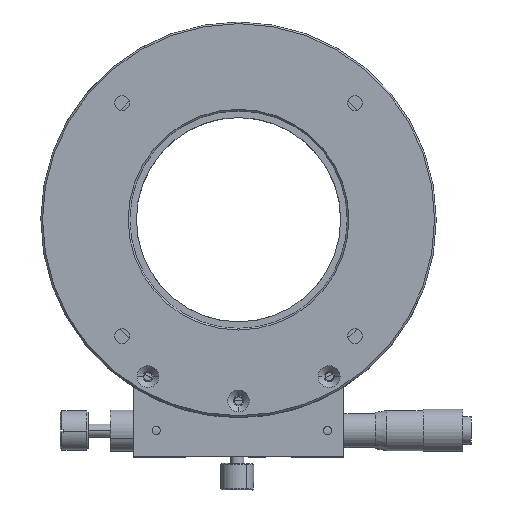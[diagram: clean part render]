
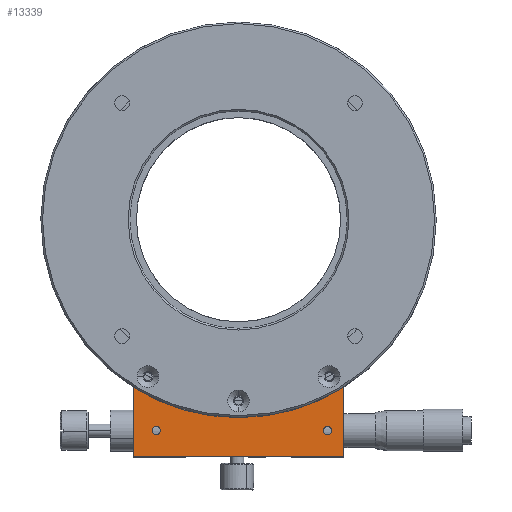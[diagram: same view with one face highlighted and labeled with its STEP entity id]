
A CAD part, top view. The second image highlights one B-rep face of the part: STEP entity #13339.
In plain terms, the highlighted planar face has unit normal (0, 0, 1).
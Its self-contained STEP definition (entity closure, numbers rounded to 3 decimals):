
#402 = CIRCLE ( 'NONE', #16401, 1.25 ) ;
#1124 = LINE ( 'NONE', #14898, #10616 ) ;
#1240 = VECTOR ( 'NONE', #19619, 1000. ) ;
#1335 = AXIS2_PLACEMENT_3D ( 'NONE', #8649, #22175, #12469 ) ;
#1393 = DIRECTION ( 'NONE',  ( 0., 0., 1. ) ) ;
#1396 = FACE_BOUND ( 'NONE', #19332, .T. ) ;
#1850 = CARTESIAN_POINT ( 'NONE',  ( 21.297, -1.812, 95.661 ) ) ;
#2144 = EDGE_CURVE ( 'NONE', #5769, #4535, #9779, .T. ) ;
#2302 = DIRECTION ( 'NONE',  ( 0., 0., -1. ) ) ;
#2458 = EDGE_LOOP ( 'NONE', ( #21511, #7089 ) ) ;
#2645 = EDGE_CURVE ( 'NONE', #10055, #16226, #402, .T. ) ;
#3714 = CARTESIAN_POINT ( 'NONE',  ( 21.297, -4.312, 95.661 ) ) ;
#3861 = CIRCLE ( 'NONE', #1335, 60.1 ) ;
#4535 = VERTEX_POINT ( 'NONE', #7909 ) ;
#4808 = LINE ( 'NONE', #10020, #1240 ) ;
#5769 = VERTEX_POINT ( 'NONE', #7703 ) ;
#6132 = DIRECTION ( 'NONE',  ( 0., -1., 0. ) ) ;
#6779 = CARTESIAN_POINT ( 'NONE',  ( 62.764, 7.354, 95.661 ) ) ;
#6912 = AXIS2_PLACEMENT_3D ( 'NONE', #6779, #1393, #14669 ) ;
#6976 = CARTESIAN_POINT ( 'NONE',  ( 73.297, -3.062, 95.661 ) ) ;
#7089 = ORIENTED_EDGE ( 'NONE', *, *, #11259, .T. ) ;
#7703 = CARTESIAN_POINT ( 'NONE',  ( 73.297, -1.812, 95.661 ) ) ;
#7843 = CARTESIAN_POINT ( 'NONE',  ( 14.297, 10.066, 95.661 ) ) ;
#7909 = CARTESIAN_POINT ( 'NONE',  ( 73.297, -4.312, 95.661 ) ) ;
#8352 = ORIENTED_EDGE ( 'NONE', *, *, #15908, .T. ) ;
#8475 = FACE_BOUND ( 'NONE', #2458, .T. ) ;
#8649 = CARTESIAN_POINT ( 'NONE',  ( 46.297, 60.938, 95.661 ) ) ;
#8821 = VERTEX_POINT ( 'NONE', #9754 ) ;
#9075 = DIRECTION ( 'NONE',  ( 0., -1., 0. ) ) ;
#9704 = CIRCLE ( 'NONE', #13610, 1.25 ) ;
#9754 = CARTESIAN_POINT ( 'NONE',  ( 78.297, 10.066, 95.661 ) ) ;
#9779 = CIRCLE ( 'NONE', #11344, 1.25 ) ;
#9876 = CARTESIAN_POINT ( 'NONE',  ( 73.297, -3.062, 95.661 ) ) ;
#10020 = CARTESIAN_POINT ( 'NONE',  ( 14.297, 7.354, 95.661 ) ) ;
#10055 = VERTEX_POINT ( 'NONE', #3714 ) ;
#10083 = CARTESIAN_POINT ( 'NONE',  ( 62.764, -11.062, 95.661 ) ) ;
#10394 = ORIENTED_EDGE ( 'NONE', *, *, #16874, .T. ) ;
#10616 = VECTOR ( 'NONE', #18480, 1000. ) ;
#10725 = EDGE_LOOP ( 'NONE', ( #11848, #18665, #8352, #16554, #10394 ) ) ;
#11259 = EDGE_CURVE ( 'NONE', #16226, #10055, #22881, .T. ) ;
#11314 = AXIS2_PLACEMENT_3D ( 'NONE', #14686, #22428, #9075 ) ;
#11344 = AXIS2_PLACEMENT_3D ( 'NONE', #6976, #21963, #20154 ) ;
#11496 = DIRECTION ( 'NONE',  ( 0., 0., -1. ) ) ;
#11768 = VERTEX_POINT ( 'NONE', #24514 ) ;
#11848 = ORIENTED_EDGE ( 'NONE', *, *, #24197, .T. ) ;
#12032 = ORIENTED_EDGE ( 'NONE', *, *, #23779, .T. ) ;
#12469 = DIRECTION ( 'NONE',  ( 0., -1., 0. ) ) ;
#12548 = PLANE ( 'NONE',  #6912 ) ;
#13194 = VERTEX_POINT ( 'NONE', #7843 ) ;
#13339 = ADVANCED_FACE ( 'NONE', ( #13552, #8475, #1396 ), #12548, .T. ) ;
#13406 = ORIENTED_EDGE ( 'NONE', *, *, #2144, .T. ) ;
#13552 = FACE_OUTER_BOUND ( 'NONE', #10725, .T. ) ;
#13610 = AXIS2_PLACEMENT_3D ( 'NONE', #9876, #11496, #17443 ) ;
#14669 = DIRECTION ( 'NONE',  ( 0., -1., 0. ) ) ;
#14686 = CARTESIAN_POINT ( 'NONE',  ( 21.297, -3.062, 95.661 ) ) ;
#14898 = CARTESIAN_POINT ( 'NONE',  ( 78.297, 7.354, 95.661 ) ) ;
#15542 = DIRECTION ( 'NONE',  ( 0., -1., 0. ) ) ;
#15908 = EDGE_CURVE ( 'NONE', #11768, #13194, #23307, .T. ) ;
#16226 = VERTEX_POINT ( 'NONE', #1850 ) ;
#16401 = AXIS2_PLACEMENT_3D ( 'NONE', #21522, #23286, #6132 ) ;
#16554 = ORIENTED_EDGE ( 'NONE', *, *, #18730, .T. ) ;
#16874 = EDGE_CURVE ( 'NONE', #21386, #16960, #17806, .T. ) ;
#16960 = VERTEX_POINT ( 'NONE', #17657 ) ;
#17443 = DIRECTION ( 'NONE',  ( 0., -1., 0. ) ) ;
#17657 = CARTESIAN_POINT ( 'NONE',  ( 78.297, -11.062, 95.661 ) ) ;
#17806 = LINE ( 'NONE', #10083, #21694 ) ;
#18480 = DIRECTION ( 'NONE',  ( 0., 1., 0. ) ) ;
#18665 = ORIENTED_EDGE ( 'NONE', *, *, #21985, .T. ) ;
#18730 = EDGE_CURVE ( 'NONE', #13194, #21386, #4808, .T. ) ;
#19332 = EDGE_LOOP ( 'NONE', ( #12032, #13406 ) ) ;
#19619 = DIRECTION ( 'NONE',  ( 0., -1., 0. ) ) ;
#20154 = DIRECTION ( 'NONE',  ( 0., -1., 0. ) ) ;
#21386 = VERTEX_POINT ( 'NONE', #23973 ) ;
#21511 = ORIENTED_EDGE ( 'NONE', *, *, #2645, .T. ) ;
#21522 = CARTESIAN_POINT ( 'NONE',  ( 21.297, -3.062, 95.661 ) ) ;
#21694 = VECTOR ( 'NONE', #23428, 1000. ) ;
#21963 = DIRECTION ( 'NONE',  ( 0., 0., -1. ) ) ;
#21985 = EDGE_CURVE ( 'NONE', #8821, #11768, #3861, .T. ) ;
#22175 = DIRECTION ( 'NONE',  ( 0., 0., -1. ) ) ;
#22428 = DIRECTION ( 'NONE',  ( 0., 0., -1. ) ) ;
#22881 = CIRCLE ( 'NONE', #11314, 1.25 ) ;
#23168 = CARTESIAN_POINT ( 'NONE',  ( 46.297, 60.938, 95.661 ) ) ;
#23286 = DIRECTION ( 'NONE',  ( 0., 0., -1. ) ) ;
#23307 = CIRCLE ( 'NONE', #24072, 60.1 ) ;
#23428 = DIRECTION ( 'NONE',  ( 1., 0., 0. ) ) ;
#23779 = EDGE_CURVE ( 'NONE', #4535, #5769, #9704, .T. ) ;
#23973 = CARTESIAN_POINT ( 'NONE',  ( 14.297, -11.062, 95.661 ) ) ;
#24072 = AXIS2_PLACEMENT_3D ( 'NONE', #23168, #2302, #15542 ) ;
#24197 = EDGE_CURVE ( 'NONE', #16960, #8821, #1124, .T. ) ;
#24514 = CARTESIAN_POINT ( 'NONE',  ( 46.297, 0.838, 95.661 ) ) ;
